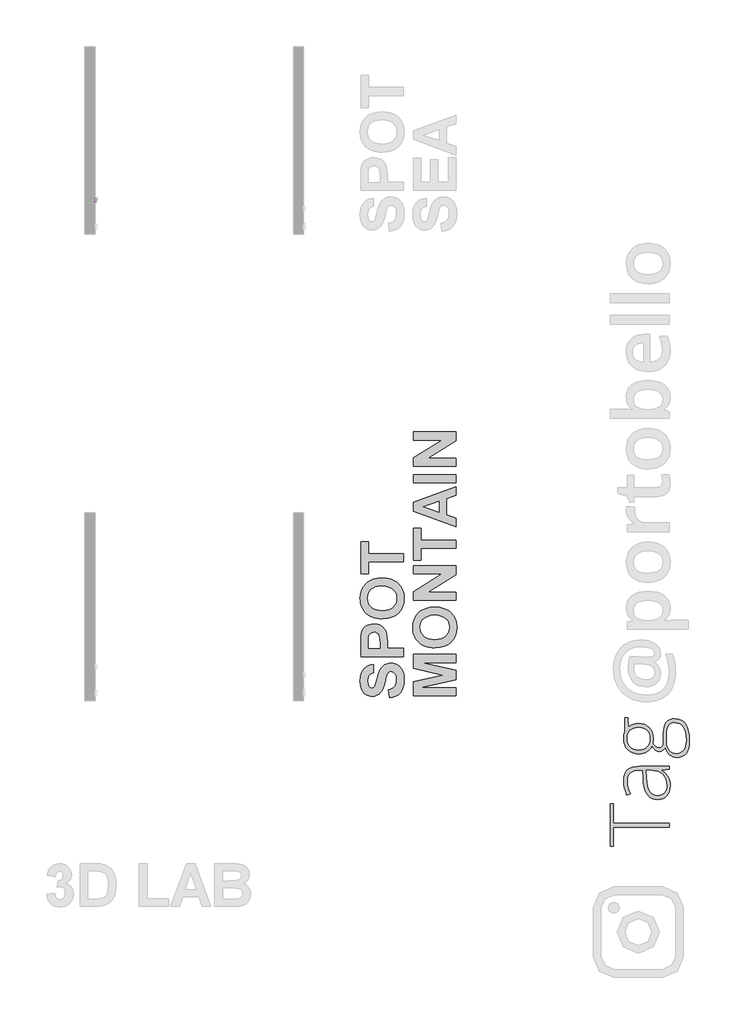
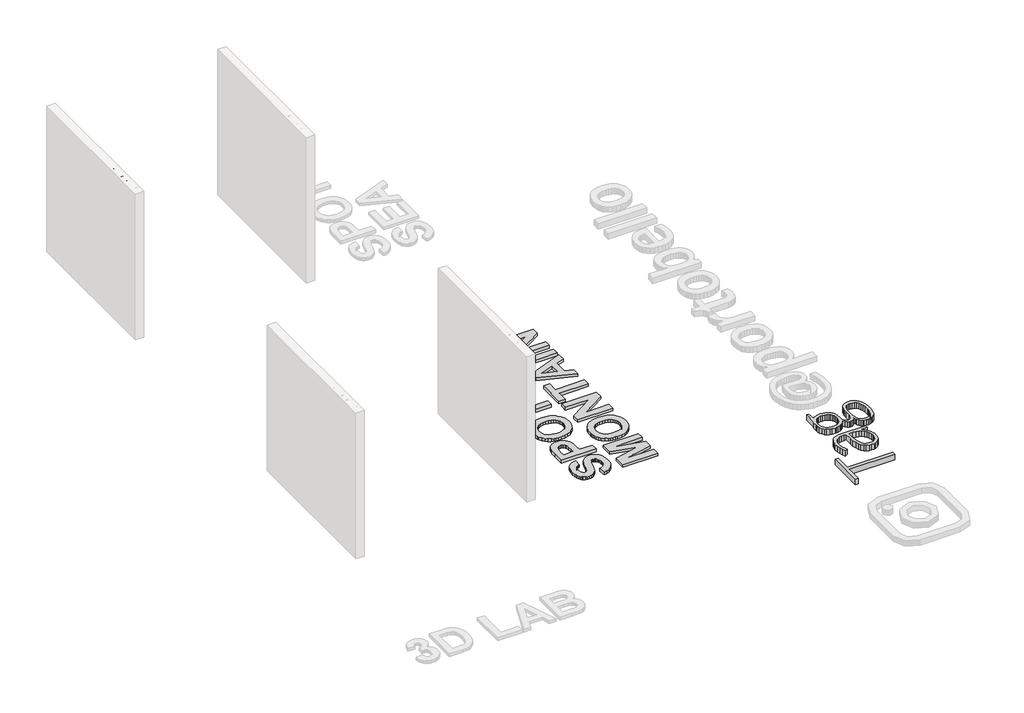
# One storey, part 2 of 7: 3 proxies.
"""IFC4 building model written with IfcOpenShell, lengths in millimetres."""

import ifcopenshell
import ifcopenshell.guid

model = None  # the IFC model being written
_history = None  # IfcOwnerHistory: only IFC2X3 demands one
_inside = {}  # id of a spatial element -> (the spatial element, [elements in it])
_under = {}  # id of a project, library or spatial element -> (it, [spatial elements below it])
_declared = {}  # id of a project -> (the project, [libraries it declares])
_typed = {}  # id of a type object -> (the type object, [elements of that type])
_made_of = {}  # id of a material, layer set ... -> (it, [elements and type objects made of it])


def new_model(schema):
    """Start an empty IFC model of exactly this schema.

    Asked for "IFC4X3", IfcOpenShell would pick the latest addendum, in which some entities
    have other attributes; the version numbers below select the first issue.
    IFC2X3 requires an IfcOwnerHistory on every rooted entity: one is made here for all.
    """
    global model, _history
    if schema == "IFC4X3":
        model = ifcopenshell.file(schema_version=(4, 3, 0, 0))
    else:
        model = ifcopenshell.file(schema=schema)
    _inside.clear()
    _under.clear()
    _declared.clear()
    _typed.clear()
    _made_of.clear()
    _history = None
    if model.schema == "IFC2X3":
        org = make("IfcOrganization", Name="unknown")
        user = make(
            "IfcPersonAndOrganization",
            ThePerson=make("IfcPerson", FamilyName="unknown"),
            TheOrganization=org,
        )
        app = make(
            "IfcApplication",
            ApplicationDeveloper=org,
            Version="unknown",
            ApplicationFullName="unknown",
            ApplicationIdentifier="unknown",
        )
        _history = make(
            "IfcOwnerHistory",
            OwningUser=user,
            OwningApplication=app,
            ChangeAction="ADDED",
            CreationDate=0,
        )
    return model


def make(cls, **values):
    """One entity of the class cls with the attributes given. An attribute that is None is left unset."""
    return model.create_entity(
        cls, **{name: value for name, value in values.items() if value is not None}
    )


def rooted(cls, **values):
    """An entity with a GlobalId (a new one), such as an element, a storey or a relation."""
    return make(cls, GlobalId=ifcopenshell.guid.new(), OwnerHistory=_history, **values)


def si_unit(unit_type, name, prefix=None):
    """IfcSIUnit, for example si_unit("LENGTHUNIT", "METRE", prefix="MILLI")."""
    return make("IfcSIUnit", UnitType=unit_type, Prefix=prefix, Name=name)


def assignment(units):
    """IfcUnitAssignment: the units of a project."""
    return None if units is None else make("IfcUnitAssignment", Units=units)


def point(xyz):
    """IfcCartesianPoint."""
    return None if xyz is None else make("IfcCartesianPoint", Coordinates=xyz)


def direction(xyz):
    """IfcDirection."""
    return None if xyz is None else make("IfcDirection", DirectionRatios=xyz)


def frame(location, z_axis=None, x_axis=None):
    """IfcAxis2Placement3D, a coordinate frame: its origin and axes. An axis left out is left unset."""
    return make(
        "IfcAxis2Placement3D",
        Location=point(location),
        Axis=direction(z_axis),
        RefDirection=direction(x_axis),
    )


def origin():
    """The frame at (0, 0, 0) with its axes left unset."""
    return frame((0.0, 0.0, 0.0))


def origin_with_axes():
    """The frame at (0, 0, 0) with the z axis (0, 0, 1) and the x axis (1, 0, 0) written out."""
    return frame((0.0, 0.0, 0.0), z_axis=(0.0, 0.0, 1.0), x_axis=(1.0, 0.0, 0.0))


def place(relative_to, where):
    """IfcLocalPlacement: puts the frame where relative to a parent placement (None: the world)."""
    return make(
        "IfcLocalPlacement", PlacementRelTo=relative_to, RelativePlacement=where
    )


def context(
    kind, dimensions, precision=None, world=None, true_north=None, identifier=None
):
    """IfcGeometricRepresentationContext, for example the 3D "Model" context."""
    return make(
        "IfcGeometricRepresentationContext",
        ContextIdentifier=identifier,
        ContextType=kind,
        CoordinateSpaceDimension=dimensions,
        Precision=precision,
        WorldCoordinateSystem=world,
        TrueNorth=true_north,
    )


def project(units=None, contexts=None):
    """IfcProject with its units and contexts."""
    return rooted(
        "IfcProject",
        Name="project",
        RepresentationContexts=contexts,
        UnitsInContext=assignment(units),
    )


def spatial(cls, under=None, at=None, **own):
    """A site, building, storey or space (cls), placed at a placement, below another one or the project."""
    s = rooted(cls, ObjectPlacement=at, **own)
    if under is not None:
        _under.setdefault(under.id(), (under, []))[1].append(s)
    return s


def polyline(points):
    """IfcPolyline through the points."""
    return make("IfcPolyline", Points=[point(p) for p in points])


def outline(outer, holes=None, kind="AREA"):
    """IfcArbitraryClosedProfileDef: a profile drawn as a closed curve; with holes, ...WithVoids."""
    if holes is None:
        return make("IfcArbitraryClosedProfileDef", ProfileType=kind, OuterCurve=outer)
    return make(
        "IfcArbitraryProfileDefWithVoids",
        ProfileType=kind,
        OuterCurve=outer,
        InnerCurves=holes,
    )


def extrude(swept, where, along, depth):
    """IfcExtrudedAreaSolid: the profile swept, set in the frame where, extruded along a direction by depth."""
    return make(
        "IfcExtrudedAreaSolid",
        SweptArea=swept,
        Position=where,
        ExtrudedDirection=direction(along),
        Depth=depth,
    )


def shape(context_of_items, identifier, shape_type, items):
    """IfcShapeRepresentation: the items that make up one representation, for example the "Body"."""
    return make(
        "IfcShapeRepresentation",
        ContextOfItems=context_of_items,
        RepresentationIdentifier=identifier,
        RepresentationType=shape_type,
        Items=items,
    )


def made_of(thing, what):
    """Note that an element or type object is made of a material, layer set ...; save() writes the relation."""
    if what is not None:
        _made_of.setdefault(what.id(), (what, []))[1].append(thing)
    return thing


def element(
    cls,
    number,
    at=None,
    inside=None,
    cuts=None,
    type_object=None,
    material=None,
    context=None,
    identifier="Body",
    shape_type=None,
    held_by="IfcProductDefinitionShape",
    body=None,
    shapes=None,
    **own,
):
    """One element of the class cls, such as IfcWall. Its Tag is "e" and its number.

    at: its placement. inside: the storey or other place that contains it. cuts: it is an
    opening in that element (IfcRelVoidsElement). A single representation is given by context,
    identifier, shape_type and body (its items); several are given by shapes. held_by: the class
    of the entity that holds the representations. save() writes the other relations.
    """
    e = rooted(cls, Tag="e%d" % number, ObjectPlacement=at, **own)
    if body is not None:
        shapes = [shape(context, identifier, shape_type, body)]
    if shapes is not None:
        e.Representation = make(held_by, Representations=shapes)
    if inside is not None:
        _inside.setdefault(inside.id(), (inside, []))[1].append(e)
    if cuts is not None:
        rooted(
            "IfcRelVoidsElement", RelatingBuildingElement=cuts, RelatedOpeningElement=e
        )
    if type_object is not None:
        _typed.setdefault(type_object.id(), (type_object, []))[1].append(e)
    return made_of(e, material)


def aggregate(whole, parts):
    """IfcRelAggregates: a whole, such as a stair, and the parts it consists of."""
    return rooted("IfcRelAggregates", RelatingObject=whole, RelatedObjects=parts)


def save(model, path):
    """Write the relations noted so far, then the file.

    IfcRelAggregates (storeys below a building ...), IfcRelContainedInSpatialStructure (elements
    in a storey), IfcRelDefinesByType, IfcRelAssociatesMaterial and IfcRelDeclares: one each for
    every whole, place, type object, material and project.
    """
    for whole, parts in _under.values():
        aggregate(whole, parts)
    for where, things in _inside.values():
        rooted(
            "IfcRelContainedInSpatialStructure",
            RelatedElements=things,
            RelatingStructure=where,
        )
    for kind, things in _typed.values():
        rooted("IfcRelDefinesByType", RelatedObjects=things, RelatingType=kind)
    for what, things in _made_of.values():
        rooted("IfcRelAssociatesMaterial", RelatedObjects=things, RelatingMaterial=what)
    for by, libraries in _declared.values():
        rooted("IfcRelDeclares", RelatingContext=by, RelatedDefinitions=libraries)
    model.write(path)


model = new_model("IFC4")

# Units and contexts
model_context = context("Model", 3, world=origin())
ifc_project = project(units=[si_unit("LENGTHUNIT", "METRE", prefix="MILLI")], contexts=[model_context])

# Site, building, storey
site = spatial("IfcSite", under=ifc_project)
building = spatial("IfcBuilding", under=site)
storey = spatial("IfcBuildingStorey", under=building, Name="PORTOBELLO - SHOWROOM", Elevation=0.0)

# Proxies
placement = place(None, origin())
element("IfcBuildingElementProxy", 1, Name="10mm Arial Narrow", ObjectType="10mm Arial Narrow", at=placement, inside=storey, context=model_context, shape_type="SweptSolid", body=[
    extrude(outline(polyline([(-2563.7082487, 2553.8086596), (-2563.7082487, 2654.5272634), (-2532.411364, 2654.5272634), (-2516.1156625, 2652.6489426), (-2504.6426764, 2643.1684995), (-2500.3529979, 2626.1493906), (-2502.1393063, 2614.0735651), (-2507.4982315, 2604.4471713), (-2517.2420203, 2598.1459129), (-2532.1829196, 2596.0454935), (-2553.961287, 2596.0454935), (-2553.961287, 2553.8086596), (-2563.7082487, 2553.8086596)]), holes=[polyline([(-2553.961287, 2607.4169487), (-2530.9899321, 2607.4169487), (-2515.1257367, 2611.9477629), (-2510.0999596, 2625.6163537), (-2512.5747741, 2635.7821301), (-2518.5524029, 2641.5820799), (-2531.2183765, 2643.1558081), (-2553.961287, 2643.1558081), (-2553.961287, 2607.4169487)])]), frame((37576.625413, 0.0, 0.0), z_axis=(1.0, 0.0, 0.0), x_axis=(0.0, 1.0, 0.0)), (0.0, 0.0, 1.0), 20.0),
    extrude(outline(polyline([(-2492.2305299, 2590.3597658), (-2490.276061, 2606.9505414), (-2484.4126544, 2618.9026262), (-2475.5540877, 2626.1271808), (-2464.6141385, 2628.5353656), (-2453.8011029, 2626.1271808), (-2444.9171535, 2618.9026262), (-2438.9775988, 2607.1409117), (-2436.9977472, 2591.1212472), (-2438.9426975, 2573.9593606), (-2444.7775486, 2561.8169055), (-2453.6265968, 2554.5923509), (-2464.6141385, 2552.184166), (-2475.4747667, 2554.5986966), (-2484.3491976, 2561.8422882), (-2490.2601968, 2573.8007187), (-2492.2305299, 2590.3597658)]), holes=[polyline([(-2482.4835682, 2590.3851485), (-2481.1795314, 2577.8333971), (-2477.2674208, 2568.9621391), (-2471.426224, 2563.6888805), (-2464.3349287, 2561.9311277), (-2457.6148555, 2563.7047447), (-2451.9227822, 2569.0255959), (-2448.0392272, 2577.9127181), (-2446.7447088, 2590.3851485), (-2448.0487457, 2602.8988259), (-2451.9608563, 2611.7573926), (-2457.802053, 2617.0306511), (-2464.8933484, 2618.788404), (-2471.6610141, 2617.0211326), (-2477.3435689, 2611.7193185), (-2481.1985684, 2602.8512333), (-2482.4835682, 2590.3851485)])]), frame((37576.625413, 0.0, 0.0), z_axis=(1.0, 0.0, 0.0), x_axis=(0.0, 1.0, 0.0)), (0.0, 0.0, 1.0), 20.0),
    extrude(outline(polyline([(-2365.5200284, 2561.9311277), (-2363.8955348, 2552.184166), (-2371.2565214, 2552.184166), (-2379.5312858, 2554.3036225), (-2383.8463469, 2560.1035724), (-2385.0139517, 2574.7493976), (-2385.0139517, 2617.1639104), (-2393.1364197, 2617.1639104), (-2393.1364197, 2620.4128976), (-2394.7609133, 2615.5394168), (-2402.3249617, 2617.1639104), (-2408.4041214, 2614.8413922), (-2412.2749851, 2608.3561091), (-2414.2548366, 2592.9488025), (-2414.2548366, 2553.8086596), (-2424.0017983, 2553.8086596), (-2424.0017983, 2626.910872), (-2414.2548366, 2626.910872), (-2414.2548366, 2617.2146758), (-2408.0106893, 2626.3016869), (-2401.6142458, 2628.5353656), (-2393.1364197, 2626.910872), (-2385.0139517, 2626.910872), (-2385.0139517, 2643.1558081), (-2375.26699, 2651.2782762), (-2375.26699, 2626.910872), (-2365.5200284, 2626.910872), (-2365.5200284, 2617.1639104), (-2375.26699, 2617.1639104), (-2375.26699, 2572.5157188), (-2374.4039778, 2564.5201644), (-2369.7843241, 2561.9311277), (-2365.5200284, 2561.9311277)])), frame((37576.625413, 0.0, 0.0), z_axis=(1.0, 0.0, 0.0), x_axis=(0.0, 1.0, 0.0)), (0.0, 0.0, 1.0), 20.0),
    extrude(outline(polyline([(-2359.0220539, 2590.3597658), (-2357.0675851, 2606.9505414), (-2351.2041785, 2618.9026262), (-2342.3456117, 2626.1271808), (-2331.4056626, 2628.5353656), (-2320.592627, 2626.1271808), (-2311.7086776, 2618.9026262), (-2305.7691228, 2607.1409117), (-2303.7892712, 2591.1212472), (-2305.7342216, 2573.9593606), (-2311.5690727, 2561.8169055), (-2320.4181209, 2554.5923509), (-2331.4056626, 2552.184166), (-2342.2662908, 2554.5986966), (-2351.1407217, 2561.8422882), (-2357.0517209, 2573.8007187), (-2359.0220539, 2590.3597658)]), holes=[polyline([(-2349.2750923, 2590.3851485), (-2347.9710554, 2577.8333971), (-2344.0589448, 2568.9621391), (-2338.2177481, 2563.6888805), (-2331.1264528, 2561.9311277), (-2324.4063796, 2563.7047447), (-2318.7143063, 2569.0255959), (-2314.8307512, 2577.9127181), (-2313.5362329, 2590.3851485), (-2314.8402698, 2602.8988259), (-2318.7523803, 2611.7573926), (-2324.5935771, 2617.0306511), (-2331.6848724, 2618.788404), (-2338.4525382, 2617.0211326), (-2344.135093, 2611.7193185), (-2347.9900925, 2602.8512333), (-2349.2750923, 2590.3851485)])]), frame((37576.625413, 0.0, 0.0), z_axis=(1.0, 0.0, 0.0), x_axis=(0.0, 1.0, 0.0)), (0.0, 0.0, 1.0), 20.0),
    extrude(outline(polyline([(-2281.0463607, 2553.8086596), (-2290.7933224, 2553.8086596), (-2290.7933224, 2654.5272634), (-2281.0463607, 2654.5272634), (-2281.0463607, 2619.1183792), (-2273.6473, 2626.2001561), (-2264.4460667, 2628.5353656), (-2251.56434, 2624.3345267), (-2242.2869585, 2611.6050963), (-2238.8095269, 2590.9181855), (-2240.7417859, 2574.463842), (-2246.5385629, 2562.2611029), (-2254.9116852, 2554.7034002), (-2264.5729802, 2552.184166), (-2273.9138185, 2554.7985854), (-2281.0463607, 2562.5656955), (-2281.0463607, 2553.8086596)]), holes=[polyline([(-2281.0463607, 2590.9181855), (-2278.9649783, 2573.6706323), (-2273.0761889, 2564.9389791), (-2264.6237456, 2561.9311277), (-2258.681018, 2563.7206089), (-2253.4426607, 2569.0890526), (-2248.5564885, 2590.5120621), (-2253.2649817, 2611.9477629), (-2258.5096847, 2617.0782437), (-2264.8268073, 2618.788404), (-2270.8044362, 2616.9989227), (-2276.0967318, 2611.630479), (-2281.0463607, 2590.9181855)])]), frame((37576.625413, 0.0, 0.0), z_axis=(1.0, 0.0, 0.0), x_axis=(0.0, 1.0, 0.0)), (0.0, 0.0, 1.0), 20.0),
    extrude(outline(polyline([(-2186.8257314, 2576.5515701), (-2177.0787697, 2574.9270765), (-2180.7783001, 2565.04051), (-2186.597287, 2557.9206591), (-2194.3009403, 2553.6182893), (-2203.6544699, 2552.184166), (-2215.2480239, 2554.5986966), (-2224.3921461, 2561.8422882), (-2230.3317009, 2573.6484224), (-2232.3115525, 2589.7505807), (-2230.3221823, 2606.4175044), (-2224.354072, 2618.5980336), (-2215.3400362, 2626.0510326), (-2204.2128896, 2628.5353656), (-2193.5299404, 2626.1366993), (-2184.782423, 2618.9407003), (-2178.947572, 2607.2011957), (-2177.0026216, 2591.1720126), (-2177.0787697, 2587.9230254), (-2222.5645908, 2587.9230254), (-2216.5615793, 2568.4798675), (-2210.631543, 2563.5683126), (-2203.5275563, 2561.9311277), (-2193.3490885, 2565.5862383), (-2186.8257314, 2576.5515701)]), holes=[polyline([(-2221.9046403, 2597.6699871), (-2186.8257314, 2597.6699871), (-2191.0900271, 2611.9350716), (-2196.9153597, 2617.0750709), (-2204.1367414, 2618.788404), (-2216.3458262, 2613.0772936), (-2221.9046403, 2597.6699871)])]), frame((37576.625413, 0.0, 0.0), z_axis=(1.0, 0.0, 0.0), x_axis=(0.0, 1.0, 0.0)), (0.0, 0.0, 1.0), 20.0),
    extrude(outline(polyline([(37596.625413, -2154.3358592), (37596.625413, -2164.0828209), (37576.625413, -2164.0828209), (37576.625413, -2154.3358592), (37596.625413, -2154.3358592)])), frame((0.0, 0.0, 2553.8086596), z_axis=(0.0, 0.0, 1.0), x_axis=(1.0, 0.0, 0.0)), (0.0, 0.0, 1.0), 100.7186038),
    extrude(outline(polyline([(37596.625413, -2128.3439615), (37596.625413, -2138.0909231), (37576.625413, -2138.0909231), (37576.625413, -2128.3439615), (37596.625413, -2128.3439615)])), frame((0.0, 0.0, 2553.8086596), z_axis=(0.0, 0.0, 1.0), x_axis=(1.0, 0.0, 0.0)), (0.0, 0.0, 1.0), 100.7186038),
    extrude(outline(polyline([(-2116.9725062, 2590.3597658), (-2115.0180373, 2606.9505414), (-2109.1546307, 2618.9026262), (-2100.296064, 2626.1271808), (-2089.3561149, 2628.5353656), (-2078.5430793, 2626.1271808), (-2069.6591299, 2618.9026262), (-2063.7195751, 2607.1409117), (-2061.7397235, 2591.1212472), (-2063.6846739, 2573.9593606), (-2069.5195249, 2561.8169055), (-2078.3685731, 2554.5923509), (-2089.3561149, 2552.184166), (-2100.216743, 2554.5986966), (-2109.0911739, 2561.8422882), (-2115.0021731, 2573.8007187), (-2116.9725062, 2590.3597658)]), holes=[polyline([(-2107.2255446, 2590.3851485), (-2105.9215077, 2577.8333971), (-2102.0093971, 2568.9621391), (-2096.1682004, 2563.6888805), (-2089.076905, 2561.9311277), (-2082.3568319, 2563.7047447), (-2076.6647585, 2569.0255959), (-2072.7812035, 2577.9127181), (-2071.4866852, 2590.3851485), (-2072.790722, 2602.8988259), (-2076.7028326, 2611.7573926), (-2082.5440294, 2617.0306511), (-2089.6353247, 2618.788404), (-2096.4029905, 2617.0211326), (-2102.0855453, 2611.7193185), (-2105.9405447, 2602.8512333), (-2107.2255446, 2590.3851485)])]), frame((37576.625413, 0.0, 0.0), z_axis=(1.0, 0.0, 0.0), x_axis=(0.0, 1.0, 0.0)), (0.0, 0.0, 1.0), 20.0),
])
element("IfcBuildingElementProxy", 2, Name="600mm Arial", ObjectType="600mm Arial", at=placement, inside=storey, context=model_context, shape_type="SweptSolid", body=[
    extrude(outline(polyline([(41805.8725694, -9682.5026004), (41796.1558132, -9565.9015261), (41824.2243335, -9558.8416954), (41848.3074656, -9548.8972028), (41868.4052093, -9536.0680481), (41884.5175648, -9520.3542315), (41896.8722685, -9501.7083077), (41905.6970568, -9480.0828318), (41910.9919298, -9455.4778037), (41912.7568875, -9427.8932233), (41911.1959437, -9398.9042681), (41906.5131125, -9373.7298988), (41898.7083938, -9352.3701154), (41887.7817876, -9334.824918), (41874.767597, -9321.1417515), (41860.7001253, -9311.3680612), (41845.5793724, -9305.503847), (41829.4053383, -9303.549109), (41809.5732871, -9306.7943537), (41792.8915904, -9316.5300879), (41778.7909071, -9334.3884231), (41766.701896, -9362.0014704), (41740.7399381, -9463.1164645), (41728.0720967, -9510.0491561), (41713.9049903, -9549.4285879), (41698.2386187, -9581.25476), (41681.0729821, -9605.5276724), (41654.4942379, -9630.7020418), (41625.1636779, -9648.6837341), (41593.0813022, -9659.4727495), (41558.2471109, -9663.069088), (41535.3216392, -9661.4179986), (41513.1552892, -9656.4647303), (41491.7480607, -9648.2092831), (41471.0999538, -9636.6516571), (41452.0365132, -9621.9816326), (41435.3832836, -9604.3889901), (41421.140265, -9583.8737294), (41409.3074574, -9560.4358507), (41400.0082181, -9534.2556453), (41393.3659043, -9505.5134046), (41388.0520532, -9440.3428172), (41391.3637211, -9386.4309517), (41401.2987247, -9339.6263619), (41417.8570642, -9299.929048), (41441.0387393, -9267.3390097), (41469.743024, -9241.7518681), (41502.8691918, -9223.0632437), (41540.4172428, -9211.2731367), (41582.387177, -9206.3815471), (41582.387177, -9322.9826214), (41560.7190005, -9328.2537718), (41542.3245358, -9335.8687101), (41527.2037829, -9345.8274363), (41515.3567417, -9358.1299504), (41506.4228297, -9373.2886594), (41500.0414639, -9391.8159704), (41494.9363713, -9438.9763984), (41500.3640906, -9488.6229495), (41507.1487397, -9508.8914956), (41516.6472484, -9526.1235555), (41532.9683623, -9541.3818992), (41553.99603, -9546.4680137), (41573.8470593, -9541.8373721), (41590.5856901, -9527.9454472), (41600.3071908, -9511.9801716), (41610.1900048, -9487.6171134), (41630.4395729, -9413.6976498), (41651.5051966, -9334.8059399), (41673.5576785, -9279.5608671), (41700.2597799, -9240.8456667), (41735.2742627, -9211.5435738), (41756.0077708, -9200.7830254), (41779.0376216, -9193.0969195), (41804.3638153, -9188.4852559), (41831.9863517, -9186.9480347), (41857.682617, -9188.765182), (41882.5438487, -9194.2166238), (41906.5700466, -9203.3023602), (41929.7612108, -9216.0223911), (41951.0735491, -9232.0683234), (41969.4632693, -9251.1317641), (41984.9303715, -9273.2127129), (41997.4748555, -9298.3111701), (42007.1726337, -9326.5552373), (42014.0996181, -9358.0730163), (42019.6412056, -9430.9297097), (42016.229903, -9485.4156609), (42005.9959952, -9533.1833861), (41988.9394823, -9574.2328854), (41965.0603642, -9608.5641588), (41934.6433115, -9636.4144316), (41897.9729948, -9658.0209295), (41855.0494141, -9673.3836524), (41805.8725694, -9682.5026004)])), origin_with_axes(), (0.0, 0.0, 1.0), 50.0),
    extrude(outline(polyline([(42009.9244494, -9089.7804728), (41397.7688094, -9089.7804728), (41397.7688094, -8892.560687), (41400.0461741, -8799.9098985), (41406.8782683, -8746.3538712), (41415.7267792, -8721.2316915), (41428.6081235, -8698.2445412), (41445.5223011, -8677.3924204), (41466.4693122, -8658.675329), (41491.0980628, -8643.2319494), (41519.0574594, -8632.200964), (41550.3475019, -8625.5823728), (41584.9681904, -8623.3761757), (41636.5315235, -8628.5571804), (41658.9683106, -8635.0334364), (41679.1751781, -8644.1001947), (41713.259737, -8667.6329636), (41739.1457827, -8696.7832322), (41757.2698104, -8728.9889651), (41768.0683148, -8761.6881271), (41774.5588043, -8816.534661), (41776.7223008, -8891.4979168), (41776.7223008, -8973.1793985), (42009.9244494, -8973.1793985), (42009.9244494, -9089.7804728)]), holes=[polyline([(41504.6531275, -8973.1793985), (41669.8379827, -8973.1793985), (41669.8379827, -8900.7592), (41667.560618, -8835.5316785), (41660.7285238, -8796.2281588), (41649.0190735, -8772.733346), (41632.1096403, -8754.931945), (41611.0250385, -8743.7159237), (41586.7900822, -8739.9772499), (41557.829594, -8745.2341669), (41534.4106933, -8761.0049176), (41517.6341065, -8784.7844011), (41508.6005597, -8814.0675159), (41504.6531275, -8909.2613617), (41504.6531275, -8973.1793985)])]), origin_with_axes(), (0.0, 0.0, 1.0), 50.0),
    extrude(outline(polyline([(41707.6422373, -8545.6421261), (41662.8350862, -8543.9246136), (41621.7855869, -8538.7720759), (41584.4937394, -8530.184513), (41550.9595437, -8518.161925), (41506.7217338, -8493.9269687), (41467.2284337, -8462.2146648), (41434.9088326, -8425.0746416), (41412.1921194, -8384.5565274), (41401.6308404, -8355.3872808), (41394.0870698, -8324.0545377), (41389.5608074, -8290.5582981), (41388.0520532, -8254.898562), (41393.2852476, -8191.7965809), (41408.9848307, -8135.3369136), (41435.1508026, -8085.5195601), (41471.7831632, -8042.3445204), (41493.7371964, -8023.6630128), (41517.7337412, -8007.4723729), (41571.8543651, -7982.5636961), (41634.1450351, -7967.6184901), (41704.605751, -7962.6367547), (41774.5872714, -7967.580534), (41836.503125, -7982.4118718), (41890.3533119, -8007.1307682), (41914.2537803, -8023.1980508), (41936.1378321, -8041.7372231), (41972.670558, -8084.6275922), (41998.7653622, -8134.1982312), (42014.4222447, -8190.4491401), (42019.6412056, -8253.3803189), (42014.4459673, -8316.975729), (41998.8602524, -8373.7010889), (41972.8840609, -8423.5563985), (41936.5173929, -8466.5416578), (41891.0412659, -8501.1481127), (41837.7366976, -8525.8670091), (41776.6036881, -8540.6983469), (41707.6422373, -8545.6421261)]), holes=[polyline([(41703.3911565, -8429.0410519), (41751.8136241, -8425.9428869), (41793.9923167, -8416.6483921), (41829.9272344, -8401.1575674), (41859.6183771, -8379.4704129), (41882.8664754, -8353.0102814), (41899.4722599, -8323.2005259), (41909.4357306, -8290.0411465), (41912.7568875, -8253.5321432), (41909.4594531, -8217.0610959), (41899.5671501, -8184.0155847), (41883.0799783, -8154.3956097), (41859.9979379, -8128.2011708), (41830.3210287, -8106.7797088), (41794.0492508, -8091.4786645), (41751.1826043, -8082.2980379), (41701.721089, -8079.237829), (41652.9475276, -8082.2173812), (41610.778324, -8091.1560378), (41575.2134781, -8106.0537987), (41546.2529899, -8126.9106641), (41523.8019693, -8152.7018197), (41507.765526, -8182.4024514), (41498.14366, -8216.0125592), (41494.9363713, -8253.5321432), (41498.1816161, -8291.0896832), (41507.9173503, -8324.8136593), (41524.143574, -8354.7040714), (41546.8602872, -8380.7609195), (41576.114935, -8401.8834774), (41611.9549625, -8416.9710188), (41654.3803696, -8426.0235436), (41703.3911565, -8429.0410519)])]), origin_with_axes(), (0.0, 0.0, 1.0), 50.0),
    extrude(outline(polyline([(42009.9244494, -7729.4346062), (41504.6531275, -7729.4346062), (41504.6531275, -7904.3362176), (41397.7688094, -7904.3362176), (41397.7688094, -7437.9319205), (41504.6531275, -7437.9319205), (41504.6531275, -7612.8335319), (42009.9244494, -7612.8335319), (42009.9244494, -7729.4346062)])), origin_with_axes(), (0.0, 0.0, 1.0), 50.0),
    extrude(outline(polyline([(42765.3925484, -9653.3523318), (42153.2369085, -9653.3523318), (42153.2369085, -9453.5515327), (42570.753776, -9356.991268), (42153.2369085, -9260.4310034), (42153.2369085, -9060.6302042), (42765.3925484, -9060.6302042), (42765.3925484, -9177.2312785), (42283.5021711, -9182.0896566), (42765.3925484, -9288.6703261), (42765.3925484, -9425.1603857), (42283.5021711, -9531.8928794), (42765.3925484, -9536.7512575), (42765.3925484, -9653.3523318)])), origin_with_axes(), (0.0, 0.0, 1.0), 50.0),
    extrude(outline(polyline([(42463.1103363, -8963.4626423), (42418.3031852, -8961.7451298), (42377.2536859, -8956.592592), (42339.9618384, -8948.0050292), (42306.4276428, -8935.9824412), (42262.1898328, -8911.7474849), (42222.6965328, -8880.035181), (42190.3769316, -8842.8951578), (42167.6602184, -8802.3770436), (42157.0989395, -8773.207797), (42149.5551688, -8741.8750539), (42145.0289064, -8708.3788143), (42143.5201523, -8672.7190782), (42148.7533466, -8609.6170971), (42164.4529298, -8553.1574298), (42190.6189016, -8503.3400763), (42227.2512622, -8460.1650365), (42249.2052955, -8441.483529), (42273.2018402, -8425.2928891), (42327.3224642, -8400.3842123), (42389.6131341, -8385.4390063), (42460.07385, -8380.4572709), (42530.0553704, -8385.4010502), (42591.9712241, -8400.232388), (42645.821411, -8424.9512844), (42669.7218794, -8441.018567), (42691.6059311, -8459.5577393), (42728.138657, -8502.4481084), (42754.2334612, -8552.0187474), (42769.8903438, -8608.2696563), (42775.1093046, -8671.200835), (42769.9140663, -8734.7962452), (42754.3283514, -8791.5216051), (42728.35216, -8841.3769146), (42691.9854919, -8884.362174), (42646.5093649, -8918.9686289), (42593.2047966, -8943.6875252), (42532.0717871, -8958.518863), (42463.1103363, -8963.4626423)]), holes=[polyline([(42458.8592555, -8846.861568), (42507.2817231, -8843.7634031), (42549.4604157, -8834.4689083), (42585.3953334, -8818.9780836), (42615.0864761, -8797.290929), (42638.3345744, -8770.8307976), (42654.9403589, -8741.0210421), (42664.9038296, -8707.8616627), (42668.2249865, -8671.3526594), (42664.9275522, -8634.8816121), (42655.0352491, -8601.8361009), (42638.5480774, -8572.2161259), (42615.4660369, -8546.0216869), (42585.7891277, -8524.6002249), (42549.5173499, -8509.2991806), (42506.6507033, -8500.1185541), (42457.189188, -8497.0583452), (42408.4156267, -8500.0378974), (42366.2464231, -8508.976554), (42330.6815772, -8523.8743149), (42301.721089, -8544.7311803), (42279.2700683, -8570.5223358), (42263.233625, -8600.2229676), (42253.611759, -8633.8330754), (42250.4044704, -8671.3526594), (42253.6497151, -8708.9101994), (42263.3854493, -8742.6341755), (42279.611673, -8772.5245876), (42302.3283862, -8798.5814357), (42331.583034, -8819.7039936), (42367.4230615, -8834.791535), (42409.8484687, -8843.8440598), (42458.8592555, -8846.861568)])]), origin_with_axes(), (0.0, 0.0, 1.0), 50.0),
    extrude(outline(polyline([(42765.3925484, -8283.289709), (42153.2369085, -8283.289709), (42153.2369085, -8161.0711351), (42565.2881006, -7904.3362176), (42153.2369085, -7904.3362176), (42153.2369085, -7787.7351433), (42765.3925484, -7787.7351433), (42765.3925484, -7913.7493252), (42359.4143289, -8166.6886347), (42765.3925484, -8166.6886347), (42765.3925484, -8283.289709)])), origin_with_axes(), (0.0, 0.0, 1.0), 50.0),
    extrude(outline(polyline([(42765.3925484, -7535.0994824), (42260.1212265, -7535.0994824), (42260.1212265, -7710.0010938), (42153.2369085, -7710.0010938), (42153.2369085, -7243.5967967), (42260.1212265, -7243.5967967), (42260.1212265, -7418.4984081), (42765.3925484, -7418.4984081), (42765.3925484, -7535.0994824)])), origin_with_axes(), (0.0, 0.0, 1.0), 50.0),
    extrude(outline(polyline([(42765.3925484, -6650.8746691), (42765.3925484, -6773.3968917), (42629.3579618, -6821.3733754), (42629.3579618, -7052.6018078), (42765.3925484, -7099.9709942), (42765.3925484, -7224.1632843), (42153.2369085, -7000.6778919), (42153.2369085, -6876.4856019), (42765.3925484, -6650.8746691)]), holes=[polyline([(42522.4736437, -6858.722157), (42298.9882513, -6937.5189767), (42522.4736437, -7015.2530262), (42522.4736437, -6858.722157)])]), origin_with_axes(), (0.0, 0.0, 1.0), 50.0),
    extrude(outline(polyline([(42765.3925484, -6592.5741319), (42153.2369085, -6592.5741319), (42153.2369085, -6475.9730577), (42765.3925484, -6475.9730577), (42765.3925484, -6592.5741319)])), origin_with_axes(), (0.0, 0.0, 1.0), 50.0),
    extrude(outline(polyline([(42765.3925484, -6359.3719834), (42153.2369085, -6359.3719834), (42153.2369085, -6237.1534094), (42565.2881006, -5980.418492), (42153.2369085, -5980.418492), (42153.2369085, -5863.8174177), (42765.3925484, -5863.8174177), (42765.3925484, -5989.8315995), (42359.4143289, -6242.7709091), (42765.3925484, -6242.7709091), (42765.3925484, -6359.3719834)])), origin_with_axes(), (0.0, 0.0, 1.0), 50.0),
])
element("IfcBuildingElementProxy", 3, Name="80mm OpenSans Light", ObjectType="80mm OpenSans Light", at=placement, inside=storey, context=model_context, shape_type="SweptSolid", body=[
    extrude(outline(polyline([(45828.2564724, -11482.4573317), (45828.2564724, -11542.2660534), (45030.1281693, -11542.2660534), (45030.1281693, -11816.1136472), (44981.2631711, -11816.1136472), (44981.2631711, -11208.8642431), (45030.1281693, -11208.8642431), (45030.1281693, -11482.4573317), (45828.2564724, -11482.4573317)])), origin_with_axes(), (0.0, 0.0, 1.0), 100.0),
    extrude(outline(polyline([(45828.2564724, -10709.5250432), (45726.9634033, -10724.0318395), (45726.9634033, -10728.6129331), (45756.7961846, -10752.8306934), (45781.9047131, -10777.3824918), (45802.2889888, -10802.2683283), (45817.9490118, -10827.4882028), (45829.5846714, -10854.0283231), (45837.8958568, -10882.8748967), (45842.882568, -10914.0279237), (45844.5448051, -10947.487404), (45841.4827894, -10991.8349349), (45832.2967424, -11030.9651092), (45816.9866641, -11064.8779269), (45795.5525544, -11093.5733881), (45768.7102092, -11116.3993231), (45737.1754244, -11132.7035624), (45700.9482, -11142.4861059), (45660.0285361, -11145.7469538), (45615.3231072, -11140.8874951), (45575.8827547, -11126.3091192), (45541.7074785, -11102.011826), (45512.7972786, -11067.9956156), (45489.6134457, -11024.7854048), (45472.6172704, -10972.9061107), (45461.8087527, -10912.3577333), (45457.1878927, -10843.1402725), (45453.6248199, -10721.7412927), (45410.8679465, -10721.7412927), (45367.8565679, -10724.0477461), (45330.4443037, -10730.9671062), (45298.6311539, -10742.499373), (45272.4171184, -10758.6445466), (45251.9294499, -10779.9275438), (45237.295401, -10806.8732817), (45228.5149717, -10839.4817603), (45225.5881619, -10877.7529796), (45228.6422243, -10922.4345485), (45237.8044114, -10967.9114462), (45253.0747233, -11014.1836726), (45274.45316, -11061.2512278), (45224.5701411, -11082.8841697), (45203.6370885, -11030.6151645), (45188.6849081, -10978.6642908), (45179.7135998, -10927.0315487), (45176.7231637, -10875.716938), (45180.1510306, -10826.6053879), (45190.4346313, -10784.1268796), (45207.5739658, -10748.281413), (45231.569034, -10719.0689882), (45262.8175005, -10696.4100722), (45301.7170294, -10680.2251322), (45348.2676209, -10670.5141682), (45402.469275, -10667.2771802), (45828.2564724, -10667.2771802), (45828.2564724, -10709.5250432)]), holes=[polyline([(45795.679807, -10944.4333416), (45791.9019954, -10895.9819144), (45780.5685608, -10852.9387227), (45761.6795031, -10815.3037664), (45735.2348223, -10783.0770456), (45702.0775669, -10757.244768), (45663.0507853, -10738.7931411), (45618.1544776, -10727.7221649), (45567.3886437, -10724.0318395), (45502.4898181, -10724.0318395), (45507.3254168, -10835.7596218), (45512.5189135, -10898.240648), (45521.4822685, -10951.0504768), (45534.2154817, -10994.189108), (45550.7185532, -11027.6565416), (45571.6595591, -11052.7093971), (45597.7065755, -11070.6042939), (45628.8596025, -11081.3412319), (45665.11864, -11084.9202113), (45694.3231116, -11082.6217112), (45720.0917629, -11075.726211), (45742.4245941, -11064.2337106), (45761.3216051, -11048.1442101), (45776.3533184, -11027.8712804), (45787.0902565, -11003.8284924), (45793.5324193, -10976.0158461), (45795.679807, -10944.4333416)])]), origin_with_axes(), (0.0, 0.0, 1.0), 100.0),
    extrude(outline(polyline([(45193.0114964, -9972.4779878), (45233.7323282, -9972.4779878), (45241.8764946, -10103.0391547), (45275.9165649, -10080.1018737), (45311.610919, -10063.7181015), (45348.9595569, -10053.8878382), (45387.9624786, -10050.6110838), (45433.0576185, -10054.380942), (45473.6671043, -10065.6905168), (45509.7909359, -10084.5398081), (45541.4291135, -10110.9288159), (45567.1500451, -10143.6804536), (45585.5221391, -10181.6176348), (45596.5453956, -10224.7403594), (45600.2198144, -10273.0486274), (45596.6567416, -10332.8573491), (45616.0309498, -10362.9207757), (45638.5228468, -10384.9036623), (45663.3052905, -10398.3606246), (45689.5511391, -10402.8462788), (45703.437579, -10401.4226403), (45715.3197905, -10397.151725), (45725.1977735, -10390.0335327), (45733.0715281, -10380.0680635), (45743.3789886, -10349.5592528), (45746.8148088, -10303.5892513), (45746.8148088, -10193.6430054), (45749.4234871, -10145.5971959), (45757.249522, -10103.516352), (45770.2929134, -10067.4004736), (45788.5536614, -10037.2495608), (45811.92042, -10013.4771846), (45840.281843, -9996.4969159), (45873.6379306, -9986.3087547), (45911.9886828, -9982.9127009), (45959.2709767, -9987.9550852), (46000.8428103, -10003.0822379), (46036.7041834, -10028.2941592), (46066.8550962, -10063.5908489), (46090.7388184, -10108.192885), (46107.79862, -10161.3208452), (46118.034501, -10222.9747296), (46121.4464613, -10293.1545381), (46118.5276048, -10349.1059154), (46109.7710353, -10398.3606246), (46095.1767528, -10440.9186658), (46074.7447573, -10476.780039), (46049.0954053, -10505.2289482), (46018.8490531, -10525.5495977), (45984.0057007, -10537.7419874), (45944.5653482, -10541.8061173), (45912.7681049, -10539.2928784), (45883.802232, -10531.7531619), (45857.6677294, -10519.1869677), (45834.3645972, -10501.5942959), (45814.2109667, -10479.6909422), (45797.5249697, -10454.1927026), (45784.3066059, -10425.0995771), (45774.5558755, -10392.4115656), (45760.3672106, -10418.0529644), (45741.2156944, -10437.9679962), (45717.9920951, -10450.7568824), (45691.5871807, -10455.0198445), (45661.9532316, -10449.9774603), (45634.1326321, -10434.8503075), (45608.1253821, -10409.6383863), (45583.9314816, -10374.3416965), (45570.4267995, -10400.4205261), (45553.5817367, -10423.4293867), (45533.3962931, -10443.3682784), (45509.8704688, -10460.2372011), (45483.7518728, -10473.654397), (45455.7881141, -10483.2381084), (45425.9791927, -10488.9883352), (45394.3251086, -10490.9050775), (45347.5120586, -10487.1670324), (45305.5664206, -10475.9528971), (45268.4881944, -10457.2626716), (45236.2773802, -10431.0963558), (45210.2224105, -10398.5674101), (45191.6117178, -10360.7892947), (45180.4453023, -10317.7620095), (45176.7231637, -10269.4855547), (45180.7952469, -10214.576058), (45193.0114964, -10173.5370947), (45193.0114964, -9972.4779878)]), holes=[polyline([(45937.4392026, -10480.9793748), (45969.1131699, -10477.9770088), (45996.5639416, -10468.9699107), (46019.7915176, -10453.9580806), (46038.795898, -10432.9415185), (46053.5770828, -10405.9202244), (46064.1350719, -10372.8941982), (46070.4698653, -10333.86344), (46072.5814631, -10288.8279498), (46070.0085747, -10230.9081338), (46062.2899092, -10180.71096), (46049.4254667, -10138.2364284), (46031.4152473, -10103.4845388), (46008.2592508, -10076.4552914), (45979.9574774, -10057.1486861), (45946.509927, -10045.5647229), (45907.9165996, -10041.7034018), (45880.4220848, -10044.1212012), (45856.9837467, -10051.3745994), (45837.6015852, -10063.4635963), (45822.2756002, -10080.388192), (45810.6399407, -10102.7210232), (45802.3287553, -10131.0347266), (45797.342044, -10165.3293021), (45795.679807, -10205.6047498), (45795.679807, -10308.4248501), (45797.8947975, -10348.8673168), (45804.5397692, -10383.9174546), (45815.614722, -10413.5752636), (45831.1196559, -10437.8407436), (45851.0545709, -10456.7138947), (45875.419467, -10470.194717), (45904.2143443, -10478.2832103), (45937.4392026, -10480.9793748)]), polyline([(45393.561593, -10432.623387), (45428.9934886, -10429.8635963), (45460.2101419, -10421.584224), (45487.2115528, -10407.7852703), (45509.9977214, -10388.4667351), (45528.0914504, -10364.5352931), (45541.0155425, -10336.8976192), (45548.7699978, -10305.5537133), (45551.3548162, -10270.5035755), (45548.7859044, -10233.6003216), (45541.0791688, -10201.2781614), (45528.2346096, -10173.5370947), (45510.2522266, -10150.3771217), (45487.4024317, -10132.1163737), (45459.9556367, -10119.0729822), (45427.9118415, -10111.2469474), (45391.2710462, -10108.6382691), (45352.3874238, -10111.3264802), (45318.7052514, -10119.3911137), (45290.2245291, -10132.8321695), (45266.9452567, -10151.6496477), (45248.8515277, -10175.286818), (45235.9274356, -10203.1869504), (45228.1729803, -10235.3500449), (45225.5881619, -10271.7761014), (45228.3638592, -10307.2000438), (45236.6909512, -10338.6473424), (45250.5694378, -10366.1179973), (45269.999319, -10389.6120084), (45294.3761451, -10408.4294866), (45323.0954661, -10421.8705424), (45356.1572821, -10429.9351759), (45393.561593, -10432.623387)])]), origin_with_axes(), (0.0, 0.0, 1.0), 100.0),
])

save(model, "model.ifc")
